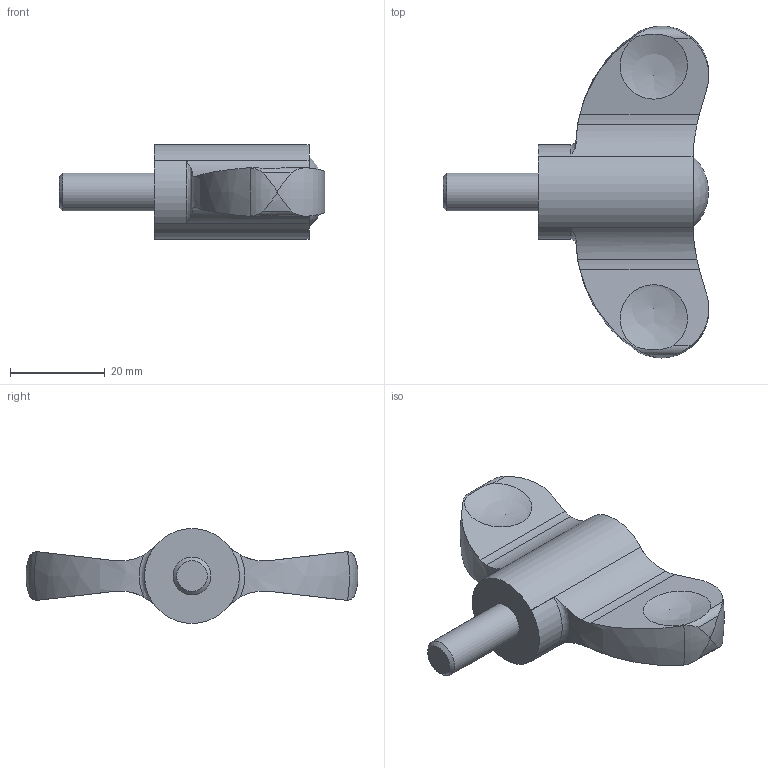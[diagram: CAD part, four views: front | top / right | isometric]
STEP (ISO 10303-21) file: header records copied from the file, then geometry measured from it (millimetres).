
FILE_DESCRIPTION( ( 'STEP AP203' ), '1' );
FILE_NAME( 'C:/Temp/Ganter_Step_05_03_2020/data/2_2/gn_633/Wing nut GN 633-70-M8-20-DGR.stp', '2020-03-05T12:21:01', ( 'License CC BY-ND 4.0' ), ( 'CADENAS' ), ' ', 'PARTsolutions', ' ' );
FILE_SCHEMA( ( 'CONFIG_CONTROL_DESIGN' ) );
Length unit declared in the file: millimetre
Products named in the file (1): _Wing nut GN 633-70-M8-20-DGR
Bounding box: 56 x 70 x 20 mm (x, y, z)
Volume: 19963.1 mm3; surface area: 6091.1 mm2
Topology: 1 solids, 1 shells, 46 faces, 133 edges, 89 vertices
Faces by surface type: cylinder 25, plane 7, sphere 5, torus 4, bspline 4, cone 1
Full cylindrical faces by diameter (mm): 8 x1
Entity records: 2042 total; most frequent: CARTESIAN_POINT 953, ORIENTED_EDGE 236, DIRECTION 180, EDGE_CURVE 118, VERTEX_POINT 84, AXIS2_PLACEMENT_3D 75, B_SPLINE_CURVE_WITH_KNOTS 56, EDGE_LOOP 52
